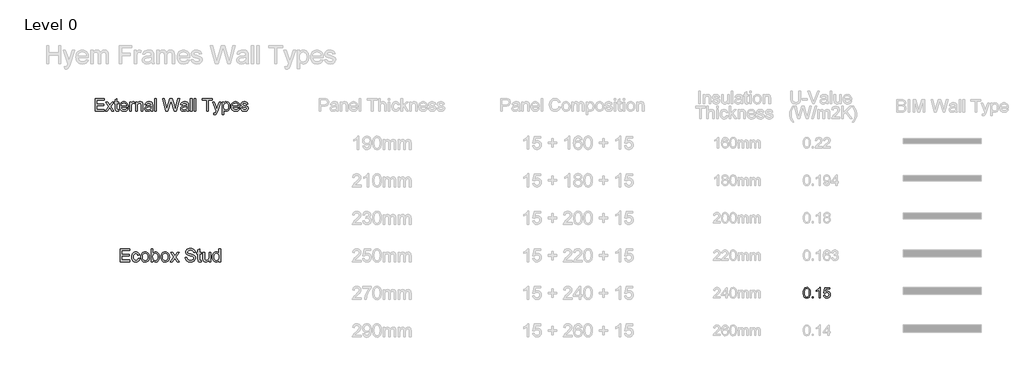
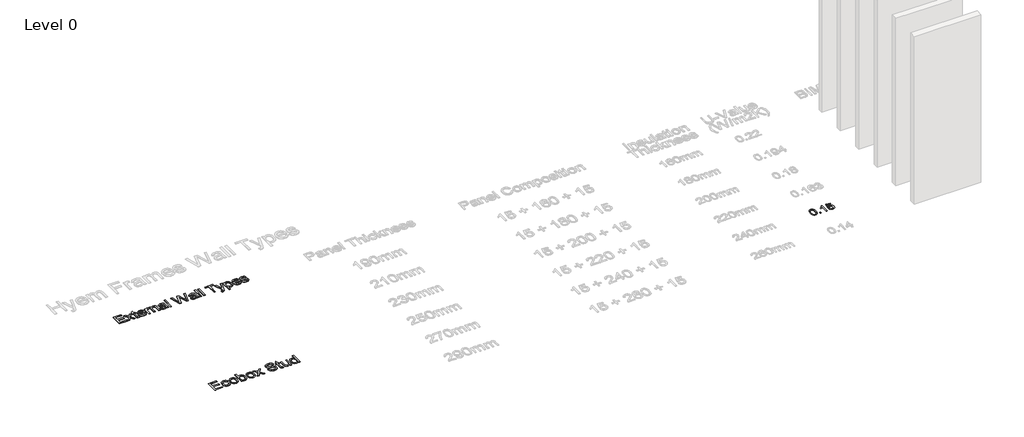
# One storey, part 4 of 11: 3 proxies.
"""IFC4 building model written with IfcOpenShell, lengths in millimetres."""

from ifc_helpers import new_model, si_unit, origin, origin_with_axes, place, context, project, spatial, polyline, outline, extrude, element, save

model = new_model("IFC4")

# Units and contexts
model_context = context("Model", 3, world=origin())
ifc_project = project(units=[si_unit("LENGTHUNIT", "METRE", prefix="MILLI")], contexts=[model_context])

# Site, building, storey
site = spatial("IfcSite", under=ifc_project)
building = spatial("IfcBuilding", under=site)
storey = spatial("IfcBuildingStorey", under=building, Name="Level 0", Elevation=0.0)

# Proxies
placement = place(None, origin())
element("IfcBuildingElementProxy", 1, Name="600mm Arial-400", ObjectType="600mm Arial-400", at=placement, inside=storey, context=model_context, shape_type="SweptSolid", body=[
    extrude(outline(polyline([(37665.4277656, -1300.3900507), (37669.1188483, -1236.0720152), (37680.1920964, -1184.7770023), (37698.5371452, -1145.7201972), (37710.3952082, -1130.4868169), (37724.0436302, -1118.1167848), (37739.5283965, -1108.5457215), (37756.8954924, -1101.7092478), (37797.2766727, -1096.2400688), (37828.2278112, -1099.4774304), (37855.9415882, -1109.189515), (37879.1181539, -1124.9961781), (37896.4576586, -1146.5172748), (37909.5542576, -1173.5688642), (37920.0021063, -1205.9670052), (37926.8447114, -1247.108475), (37929.1255798, -1300.3900507), (37925.4712853, -1364.3402042), (37914.5084018, -1415.5125897), (37896.2737176, -1454.606183), (37884.4432458, -1469.8855486), (37870.8040208, -1482.31996), (37855.3008604, -1491.9554026), (37837.8785822, -1498.8378616), (37797.2766727, -1504.3438288), (37769.6119467, -1501.9525958), (37745.0864803, -1494.7788969), (37723.7002737, -1482.8227321), (37705.4533267, -1466.0841013), (37687.9421437, -1435.8258072), (37675.4341559, -1398.1240341), (37667.9293632, -1352.9787819), (37665.4277656, -1300.3900507)]), holes=[polyline([(37715.6559207, -1300.2919488), (37717.1274487, -1343.9564759), (37721.5420326, -1379.3007386), (37728.8996725, -1406.3247369), (37739.2003684, -1425.0284706), (37751.6593053, -1437.754122), (37765.4916683, -1446.8438729), (37780.6974575, -1452.2977235), (37797.2766727, -1454.1156737), (37813.8558879, -1452.2915922), (37829.0616771, -1446.8193475), (37842.8940401, -1437.6989397), (37855.352977, -1424.9303688), (37865.6536729, -1406.1959782), (37873.0113128, -1379.1781113), (37877.4258967, -1343.8767682), (37878.8974247, -1300.2919488), (37877.4749476, -1257.7831843), (37873.2075165, -1223.0612553), (37866.0951313, -1196.1261619), (37856.1377919, -1176.977904), (37843.8873215, -1163.629919), (37829.8955429, -1154.0956439), (37814.1624563, -1148.3750789), (37796.6880615, -1146.4682239), (37780.1946854, -1148.1482183), (37765.2464137, -1153.1882017), (37751.8432463, -1161.5881739), (37739.9851833, -1173.348135), (37729.3411309, -1194.1947814), (37721.7382364, -1222.3009658), (37717.1764996, -1257.6666883), (37715.6559207, -1300.2919488)])]), origin_with_axes(), (0.0, 0.0, 1.0), 8.0),
    extrude(outline(polyline([(37998.189293, -1498.0653094), (37998.189293, -1447.8371543), (38048.4174481, -1447.8371543), (38048.4174481, -1498.0653094), (37998.189293, -1498.0653094)])), origin_with_axes(), (0.0, 0.0, 1.0), 8.0),
    extrude(outline(polyline([(38318.3937816, -1498.0653094), (38268.1656265, -1498.0653094), (38268.1656265, -1184.9241551), (38247.1963528, -1201.8835151), (38220.5862218, -1218.8183496), (38167.7093164, -1244.1776818), (38167.7093164, -1196.696379), (38207.158529, -1175.2365959), (38241.3347663, -1149.7055854), (38268.2759911, -1122.5558942), (38286.020166, -1096.2400688), (38318.3937816, -1096.2400688), (38318.3937816, -1498.0653094)])), origin_with_axes(), (0.0, 0.0, 1.0), 8.0),
    extrude(outline(polyline([(38437.6856499, -1391.3304799), (38487.913805, -1385.0519605), (38497.1353803, -1415.2060214), (38513.2240862, -1436.8006945), (38536.1063463, -1449.7869289), (38565.7085842, -1454.1156737), (38584.838448, -1452.6104232), (38601.7119688, -1448.0946717), (38616.3291468, -1440.5684192), (38628.6899818, -1430.0316658), (38638.5185624, -1417.0055775), (38645.5389772, -1402.0113205), (38651.155309, -1366.1183005), (38645.8945964, -1332.3222078), (38639.3187058, -1318.4040057), (38630.1124588, -1306.4723663), (38618.2451988, -1296.9013031), (38603.6862689, -1290.0648293), (38566.4933991, -1284.5956503), (38542.1273483, -1286.7784168), (38522.3966107, -1293.3267164), (38506.6389985, -1303.3576321), (38494.1923244, -1315.9882473), (38443.9641693, -1309.7097279), (38487.913805, -1102.5185882), (38682.5479059, -1102.5185882), (38682.5479059, -1152.7467433), (38528.5279772, -1152.7467433), (38506.9455669, -1263.4056474), (38524.6713477, -1250.7014559), (38542.8263241, -1241.6270333), (38561.4104962, -1236.1823798), (38580.423864, -1234.3674953), (38604.8880167, -1236.6177068), (38627.3656066, -1243.3683414), (38647.8566337, -1254.6193991), (38666.3610981, -1270.3708799), (38681.6833832, -1289.6601591), (38692.6278726, -1311.5246124), (38699.1945662, -1335.9642396), (38701.383464, -1362.9790408), (38699.4152954, -1389.0005606), (38693.5107894, -1413.2071959), (38683.669946, -1435.5989466), (38669.8927653, -1456.1758129), (38649.0215934, -1477.2493198), (38624.6678053, -1492.3018248), (38596.831401, -1501.3333278), (38565.5123805, -1504.3438288), (38539.5920283, -1502.4093826), (38516.1794049, -1496.6060442), (38495.2745106, -1486.9338134), (38476.8773451, -1473.3926903), (38461.5703884, -1456.6571252), (38449.9361203, -1437.4015684), (38441.9745408, -1415.62602), (38437.6856499, -1391.3304799)])), origin_with_axes(), (0.0, 0.0, 1.0), 8.0),
])
element("IfcBuildingElementProxy", 2, Name="Arial-500", ObjectType="Arial-500", at=placement, inside=storey, context=model_context, shape_type="SweptSolid", body=[
    extrude(outline(polyline([(11478.0175368, -108.8017336), (11478.0175368, 393.4798171), (11839.0324014, 393.4798171), (11839.0324014, 330.6946233), (11540.8027307, 330.6946233), (11540.8027307, 181.5797879), (11823.336103, 181.5797879), (11823.336103, 118.7945941), (11540.8027307, 118.7945941), (11540.8027307, -46.0165398), (11846.8805507, -46.0165398), (11846.8805507, -108.8017336), (11478.0175368, -108.8017336)])), origin_with_axes(), (0.0, 0.0, 1.0), 8.0),
    extrude(outline(polyline([(12168.6546691, 24.6168033), (12231.439863, 16.7686541), (12224.6110534, -12.8573428), (12213.9348114, -39.0727671), (12199.4111368, -61.8776187), (12181.0400296, -81.2718976), (12159.595575, -96.7497662), (12135.8518579, -107.8053865), (12109.8088783, -114.4387588), (12081.4666363, -116.6498828), (12046.2534315, -113.565039), (12014.6807257, -104.3105076), (11986.7485188, -88.8862885), (11962.4568108, -67.2923818), (11942.7942846, -39.9349905), (11928.749623, -7.2203177), (11920.3228261, 30.8516367), (11917.5138937, 74.2808727), (11922.3116881, 130.1529507), (11936.7050712, 178.5754183), (11947.55759, 199.5255315), (11960.9239692, 217.6782087), (11976.8042086, 233.0334499), (11995.1983084, 245.5912551), (12036.2018224, 262.3298859), (12080.6082449, 267.9094295), (12108.4638098, 265.9933774), (12133.6598943, 260.2452212), (12156.1964986, 250.6649609), (12176.0736227, 237.2525965), (12192.9540413, 220.3146963), (12206.5005294, 200.1578287), (12216.7130868, 176.7819936), (12223.5917137, 150.187191), (12160.8065199, 142.3390418), (12149.4175065, 169.730922), (12131.6825286, 189.3666235), (12108.582605, 201.1848326), (12081.0987543, 205.1242356), (12059.7654306, 203.1851909), (12040.5244359, 197.3680569), (12023.37577, 187.6728335), (12008.3194329, 174.0995207), (11996.0605318, 156.333886), (11987.3041739, 134.0616969), (11982.0503592, 107.2829533), (11980.2990876, 75.9976553), (11982.0120381, 44.2410085), (11987.1508897, 17.1518645), (11995.7156424, -5.2697767), (12007.7062962, -23.0239151), (12022.4637292, -36.5167537), (12039.3288194, -46.1544955), (12058.3015669, -51.9371406), (12079.3819716, -53.864689), (12111.8935429, -49.0515662), (12138.5496592, -34.6121979), (12149.3293681, -23.6907012), (12157.940106, -10.1787021), (12168.6546691, 24.6168033)])), origin_with_axes(), (0.0, 0.0, 1.0), 8.0),
    extrude(outline(polyline([(12270.6806091, 75.6297733), (12274.0758534, 123.4007832), (12284.2615861, 164.5652456), (12301.2378073, 199.1231606), (12325.0045171, 227.074528), (12348.9321752, 244.9397974), (12375.3430367, 257.7007041), (12404.2371018, 265.3572481), (12435.6143703, 267.9094295), (12470.2527594, 264.801593), (12501.5725463, 255.4780837), (12529.5737311, 239.9389015), (12554.2563137, 218.1840464), (12574.4016851, 190.9492825), (12588.791236, 158.9703736), (12597.4249666, 122.2473199), (12600.3028768, 80.7801212), (12595.2138425, 17.3511339), (12588.8525497, -8.6841815), (12579.9467397, -30.933378), (12568.6075436, -50.1513801), (12554.9460925, -67.0931124), (12538.9623862, -81.7585749), (12520.6564248, -94.1477675), (12479.9288223, -111.024354), (12435.6143703, -116.6498828), (12400.4701434, -113.5535427), (12368.8591166, -104.2645223), (12340.7812897, -88.7828217), (12316.2366628, -67.1084408), (12296.3058893, -39.6092617), (12282.0696225, -6.6531663), (12273.5278625, 31.7598454), (12270.6806091, 75.6297733)]), holes=[polyline([(12333.465803, 75.7524006), (12335.2822203, 45.2986692), (12340.7314724, 18.9299608), (12349.8135591, -3.3537246), (12362.5284806, -21.5523871), (12377.9948528, -35.6890192), (12395.3312918, -45.7866135), (12414.5377976, -51.8451701), (12435.6143703, -53.864689), (12456.583644, -51.8336738), (12475.7135078, -45.7406283), (12493.0039615, -35.5855524), (12508.4550053, -21.3684461), (12521.1699268, -2.9896747), (12530.2520135, 19.6503964), (12535.7012656, 46.5517673), (12537.5176829, 77.7144379), (12535.6897693, 107.2024791), (12530.2060283, 132.8814088), (12521.06646, 154.751227), (12508.2710643, 172.8119337), (12492.762539, 186.9485658), (12475.4835815, 197.0461601), (12456.4341919, 203.1047167), (12435.6143703, 205.1242356), (12414.5377976, 203.1123809), (12395.3312918, 197.076817), (12377.9948528, 187.0175437), (12362.5284806, 172.934561), (12349.8135591, 154.789548), (12340.7314724, 132.5441836), (12335.2822203, 106.1984678), (12333.465803, 75.7524006)])]), origin_with_axes(), (0.0, 0.0, 1.0), 8.0),
    extrude(outline(polyline([(12733.7214137, -108.8017336), (12670.9362199, -108.8017336), (12670.9362199, 393.4798171), (12733.7214137, 393.4798171), (12733.7214137, 207.2089002), (12754.3687907, 233.7653818), (12777.6833121, 252.7342972), (12803.664978, 264.1156464), (12832.3137884, 267.9094295), (12864.6567472, 264.4911926), (12895.2216096, 254.236482), (12922.2609362, 237.7890911), (12944.0272876, 215.7928135), (12961.0878151, 188.4622469), (12974.0096702, 156.0119893), (12982.1490594, 119.7909411), (12984.8621891, 81.1480032), (12982.0532568, 36.5576397), (12973.6264598, -2.667778), (12959.5817982, -36.52825), (12939.919272, -65.0237762), (12916.3173428, -87.6101978), (12890.4544721, -103.7433562), (12862.33066, -113.4232512), (12831.9459064, -116.6498828), (12802.3543984, -112.4882178), (12776.1198137, -100.0032226), (12753.2421521, -79.1948972), (12733.7214137, -50.0632417), (12733.7214137, -108.8017336)]), holes=[polyline([(12733.7214137, 78.2049473), (12738.0133703, 25.8430766), (12743.3783161, 6.0081057), (12750.8892401, -9.5962222), (12766.1026935, -28.9636764), (12783.7840219, -42.7975723), (12803.9332253, -51.0979098), (12826.5503038, -53.864689), (12845.327614, -51.8260096), (12862.7866803, -45.7099714), (12878.9275029, -35.5165745), (12893.7500816, -21.2458188), (12906.1431063, -2.9360253), (12914.9952668, 19.3744849), (12920.3065631, 45.6857117), (12922.0769952, 75.9976553), (12920.3793731, 106.8844145), (12915.2865067, 133.4485602), (12906.7983961, 155.6900925), (12894.9150413, 173.6090114), (12880.625125, 187.396922), (12864.9173302, 197.2454295), (12847.7916569, 203.1545341), (12829.2481051, 205.1242356), (12810.470795, 203.0855562), (12793.0117286, 196.969518), (12776.8709061, 186.7761211), (12762.0483273, 172.5053654), (12749.6553026, 154.3795129), (12740.8031421, 132.6208257), (12735.4918458, 107.2293039), (12733.7214137, 78.2049473)])]), origin_with_axes(), (0.0, 0.0, 1.0), 8.0),
    extrude(outline(polyline([(13039.7992337, 75.6297733), (13043.1944779, 123.4007832), (13053.3802107, 164.5652456), (13070.3564319, 199.1231606), (13094.1231416, 227.074528), (13118.0507998, 244.9397974), (13144.4616613, 257.7007041), (13173.3557264, 265.3572481), (13204.7329949, 267.9094295), (13239.371384, 264.801593), (13270.6911709, 255.4780837), (13298.6923557, 239.9389015), (13323.3749383, 218.1840464), (13343.5203097, 190.9492825), (13357.9098606, 158.9703736), (13366.5435912, 122.2473199), (13369.4215014, 80.7801212), (13364.3324671, 17.3511339), (13357.9711743, -8.6841815), (13349.0653643, -30.933378), (13337.7261682, -50.1513801), (13324.0647171, -67.0931124), (13308.0810108, -81.7585749), (13289.7750494, -94.1477675), (13249.0474469, -111.024354), (13204.7329949, -116.6498828), (13169.588768, -113.5535427), (13137.9777412, -104.2645223), (13109.8999143, -88.7828217), (13085.3552874, -67.1084408), (13065.4245139, -39.6092617), (13051.1882471, -6.6531663), (13042.6464871, 31.7598454), (13039.7992337, 75.6297733)]), holes=[polyline([(13102.5844275, 75.7524006), (13104.4008449, 45.2986692), (13109.8500969, 18.9299608), (13118.9321837, -3.3537246), (13131.6471052, -21.5523871), (13147.1134774, -35.6890192), (13164.4499164, -45.7866135), (13183.6564222, -51.8451701), (13204.7329949, -53.864689), (13225.7022686, -51.8336738), (13244.8321323, -45.7406283), (13262.1225861, -35.5855524), (13277.5736299, -21.3684461), (13290.2885514, -2.9896747), (13299.3706381, 19.6503964), (13304.8198902, 46.5517673), (13306.6363075, 77.7144379), (13304.8083939, 107.2024791), (13299.3246529, 132.8814088), (13290.1850846, 154.751227), (13277.3896889, 172.8119337), (13261.8811636, 186.9485658), (13244.6022061, 197.0461601), (13225.5528165, 203.1047167), (13204.7329949, 205.1242356), (13183.6564222, 203.1123809), (13164.4499164, 197.076817), (13147.1134774, 187.0175437), (13131.6471052, 172.934561), (13118.9321837, 154.789548), (13109.8500969, 132.5441836), (13104.4008449, 106.1984678), (13102.5844275, 75.7524006)])]), origin_with_axes(), (0.0, 0.0, 1.0), 8.0),
    extrude(outline(polyline([(13400.8140983, -108.8017336), (13534.9683992, 76.7334193), (13408.6622475, 260.0612802), (13483.9554292, 260.0612802), (13544.9012131, 171.646974), (13573.4733814, 130.0763086), (13598.2441024, 164.1667068), (13667.6511721, 260.0612802), (13743.1896085, 260.0612802), (13610.5068355, 76.610792), (13738.2845152, -108.8017336), (13662.8687062, -108.8017336), (13585.8587419, 2.7891383), (13571.8792261, 23.2679027), (13476.3525346, -108.8017336), (13400.8140983, -108.8017336)])), origin_with_axes(), (0.0, 0.0, 1.0), 8.0),
    extrude(outline(polyline([(13973.7289921, 63.8575495), (14036.514186, 63.8575495), (14043.7185417, 29.0160588), (14056.7476957, 1.011042), (14077.0731759, -21.2151619), (14106.1665104, -38.7202135), (14141.7284366, -50.0785701), (14181.4596921, -53.864689), (14216.4391384, -50.9982751), (14247.0653145, -42.3990335), (14271.8820208, -28.7873997), (14289.4330576, -10.8838092), (14299.8717093, 9.6715973), (14303.3512598, 31.2386792), (14300.745429, 52.2539382), (14292.9279366, 70.4181117), (14277.0476971, 85.9151408), (14250.2536252, 98.9289663), (14158.8349494, 122.9026097), (14098.8241989, 138.7675207), (14060.4265156, 153.8660109), (14029.1718745, 174.9885688), (14007.0223127, 200.5870243), (13993.8245461, 230.1095544), (13989.4252906, 263.0043362), (13994.8668784, 299.7772073), (14011.191642, 334.0668749), (14023.3279157, 349.5945608), (14037.9703855, 363.1295525), (14074.7739135, 384.2214536), (14118.9504097, 397.0513382), (14167.8480582, 401.3279664), (14220.8230655, 396.8520688), (14267.1761969, 383.4243759), (14305.2519834, 361.3207994), (14320.5650715, 347.1190215), (14333.3949561, 330.8172506), (14351.206576, 293.8144533), (14358.2883044, 252.213131), (14295.5031106, 252.213131), (14291.3031245, 272.2473713), (14283.9761414, 289.6757808), (14273.5221614, 304.4983596), (14259.9411844, 316.7151075), (14242.9802915, 326.2647109), (14222.386564, 333.0858563), (14170.3006049, 338.5427725), (14116.9883724, 333.1471699), (14096.6092427, 326.4026667), (14080.4147707, 316.9603621), (14068.0753955, 305.6096698), (14059.261556, 293.140003), (14053.9732523, 279.5513618), (14052.2104844, 264.8437462), (14057.2075482, 240.7168186), (14072.1987395, 221.3110434), (14085.9636575, 212.6811449), (14107.6380384, 203.959276), (14174.7151888, 186.2396265), (14243.9383176, 169.4090252), (14285.8155514, 154.7244023), (14321.6074038, 131.9463754), (14346.5773942, 103.8340596), (14361.2466888, 70.6940232), (14366.1364536, 32.8328345), (14360.5109248, -5.871417), (14343.6343383, -42.2764061), (14316.1964728, -73.6076894), (14278.8871071, -97.0908234), (14234.0208321, -111.760118), (14183.9122387, -116.6498828), (14122.3993034, -111.3769076), (14095.7240267, -104.7856885), (14071.7695438, -95.5579818), (14050.390235, -83.678459), (14031.4404801, -69.1317918), (14014.9202793, -51.9179801), (14000.8296324, -32.0370239), (13989.47894, -10.1327168), (13981.1786025, 13.1511478), (13975.9286199, 37.8145699), (13973.7289921, 63.8575495)])), origin_with_axes(), (0.0, 0.0, 1.0), 8.0),
    extrude(outline(polyline([(14585.8846321, -56.439863), (14593.7327813, -110.6411436), (14546.7665133, -116.6498828), (14516.6308465, -114.044052), (14494.159388, -106.2265596), (14478.2791485, -94.1784243), (14467.917139, -78.8806647), (14462.214968, -52.6077588), (14460.3142444, -7.6341849), (14460.3142444, 197.2760864), (14413.225349, 197.2760864), (14413.225349, 260.0612802), (14460.3142444, 260.0612802), (14460.3142444, 349.7018597), (14523.0994382, 386.6126866), (14523.0994382, 260.0612802), (14585.8846321, 260.0612802), (14585.8846321, 197.2760864), (14523.0994382, 197.2760864), (14523.0994382, -5.794775), (14526.4103762, -38.1683905), (14537.1402677, -49.6340461), (14558.5387371, -53.864689), (14585.8846321, -56.439863)])), origin_with_axes(), (0.0, 0.0, 1.0), 8.0),
    extrude(outline(polyline([(14884.1143028, -108.8017336), (14884.1143028, -45.4034031), (14861.3975896, -76.573738), (14834.9407428, -98.8382629), (14804.7437624, -112.1969779), (14770.8066483, -116.6498828), (14740.2264575, -113.5228859), (14711.7615881, -104.141895), (14687.8799153, -90.0397519), (14671.049314, -72.7492981), (14659.7216142, -51.7493675), (14652.3486459, -26.518794), (14648.6698259, 31.8518159), (14648.6698259, 260.0612802), (14711.4550198, 260.0612802), (14711.4550198, 61.4050028), (14715.2564671, -2.6064643), (14724.4075317, -23.9589485), (14740.0885017, -40.1917415), (14761.2570449, -50.4464521), (14786.8708288, -53.864689), (14813.9561407, -50.36981), (14839.2940131, -39.8851732), (14860.1866447, -23.3764686), (14873.9362343, -1.8093867), (14881.5697857, 27.7284719), (14884.1143028, 68.1495061), (14884.1143028, 260.0612802), (14946.8994967, 260.0612802), (14946.8994967, -108.8017336), (14884.1143028, -108.8017336)])), origin_with_axes(), (0.0, 0.0, 1.0), 8.0),
    extrude(outline(polyline([(15260.8254659, -108.8017336), (15260.8254659, -49.5727324), (15242.0404915, -78.9189857), (15219.2854573, -99.8805952), (15192.5603632, -112.4575609), (15161.8652092, -116.6498828), (15121.2755624, -110.5798299), (15084.1194809, -92.3696712), (15052.6655703, -63.2916651), (15029.1824363, -24.6180704), (15014.559127, 22.0876146), (15009.6846905, 75.2618913), (15014.1759166, 127.7770461), (15027.6495946, 175.2031667), (15037.7510211, 196.3333888), (15050.0903963, 214.8424516), (15064.6677204, 230.7303553), (15081.4829933, 243.9970998), (15119.4514808, 261.931347), (15161.6199545, 267.9094295), (15192.3381011, 263.6328013), (15219.5000551, 250.8029167), (15242.5233366, 231.1365584), (15260.8254659, 206.3505089), (15260.8254659, 393.4798171), (15323.6106598, 393.4798171), (15323.6106598, -108.8017336), (15260.8254659, -108.8017336)]), holes=[polyline([(15072.4698844, 75.507146), (15074.2403165, 45.0610788), (15079.5516128, 18.715363), (15088.4037733, -3.5300014), (15100.796798, -21.6750144), (15115.5963841, -35.757997), (15131.6682288, -45.8172704), (15149.012332, -51.8528343), (15167.6286938, -53.864689), (15186.333194, -51.9448048), (15203.5738304, -46.1851523), (15219.3506031, -36.5857315), (15233.6635119, -23.1465424), (15245.5468668, -5.760286), (15254.0349774, 15.6803365), (15259.1278438, 41.1753252), (15260.8254659, 70.72468), (15259.097187, 103.1212882), (15253.9123501, 130.9040431), (15245.2709553, 154.0729446), (15233.1730026, 172.6279927), (15218.5458612, 186.845099), (15202.3169003, 197.0001749), (15184.4861198, 203.0932204), (15165.0535198, 205.1242356), (15146.069276, 203.1736946), (15128.7251728, 197.3220716), (15113.0212101, 187.5693667), (15098.957388, 173.9155797), (15087.3691052, 156.0618066), (15079.0917603, 133.7091433), (15074.1253534, 106.8575898), (15072.4698844, 75.507146)])]), origin_with_axes(), (0.0, 0.0, 1.0), 8.0),
])
element("IfcBuildingElementProxy", 3, Name="Arial-500 Blanco", ObjectType="Arial-500 Blanco", at=placement, inside=storey, context=model_context, shape_type="SweptSolid", body=[
    extrude(outline(polyline([(10515.9563027, 5675.3857513), (10515.9563027, 6155.0189703), (10860.6926789, 6155.0189703), (10860.6926789, 6095.0648179), (10575.9104551, 6095.0648179), (10575.9104551, 5952.673706), (10845.7041408, 5952.673706), (10845.7041408, 5892.7195537), (10575.9104551, 5892.7195537), (10575.9104551, 5735.3399037), (10868.1869479, 5735.3399037), (10868.1869479, 5675.3857513), (10515.9563027, 5675.3857513)])), origin_with_axes(), (0.0, 0.0, 1.0), 20.0),
    extrude(outline(polyline([(10913.1525622, 5675.3857513), (11041.2577237, 5852.5549555), (10920.6468313, 6027.6163965), (10992.5449749, 6027.6163965), (11050.742658, 5943.1887718), (11078.0264812, 5903.4925654), (11101.6802679, 5936.0457966), (11167.9577098, 6027.6163965), (11240.0900494, 6027.6163965), (11113.3900633, 5852.4378575), (11235.4061312, 5675.3857513), (11163.3908896, 5675.3857513), (11089.8533746, 5781.9448893), (11076.5042078, 5801.5002476), (10985.2849018, 5675.3857513), (10913.1525622, 5675.3857513)])), origin_with_axes(), (0.0, 0.0, 1.0), 20.0),
    extrude(outline(polyline([(11415.2685884, 5725.3865776), (11422.7628574, 5673.629282), (11377.9143411, 5667.8914823), (11349.1375189, 5670.3798138), (11327.6793189, 5677.8448083), (11312.5151338, 5689.3496823), (11302.6203567, 5703.957652), (11297.1753019, 5729.0458887), (11295.3602836, 5771.9915632), (11295.3602836, 5967.6622441), (11250.3946693, 5967.6622441), (11250.3946693, 6027.6163965), (11295.3602836, 6027.6163965), (11295.3602836, 6113.2150008), (11355.314436, 6148.4614849), (11355.314436, 6027.6163965), (11415.2685884, 6027.6163965), (11415.2685884, 5967.6622441), (11355.314436, 5967.6622441), (11355.314436, 5773.7480325), (11358.4760807, 5742.8341727), (11368.7221517, 5731.885514), (11389.1557446, 5727.8456346), (11415.2685884, 5725.3865776)])), origin_with_axes(), (0.0, 0.0, 1.0), 20.0),
    extrude(outline(polyline([(11721.8310316, 5780.305518), (11780.6142044, 5772.8112489), (11771.6013213, 5749.2672416), (11759.434112, 5728.5189479), (11744.1125766, 5710.5663678), (11725.6367151, 5695.4095014), (11704.1968116, 5683.370368), (11679.9831503, 5674.770987), (11652.9957312, 5669.6113585), (11623.2345544, 5667.8914823), (11586.0339982, 5670.8591835), (11552.8879586, 5679.7622873), (11523.7964357, 5694.6007937), (11498.7594295, 5715.3747025), (11478.6259, 5741.5058428), (11464.2448076, 5772.4160433), (11455.6161521, 5808.1053041), (11452.7399336, 5848.5736251), (11455.6454266, 5890.4141877), (11464.3619055, 5927.2927245), (11478.8893704, 5959.2092356), (11499.2278213, 5986.1637208), (11524.1989599, 6007.5780092), (11552.6244882, 6022.8739294), (11584.5044062, 6032.0514815), (11619.8387137, 6035.1106656), (11654.0349756, 6032.0588001), (11684.9598133, 6022.9032039), (11712.613227, 6007.6438768), (11736.9952166, 5986.2808188), (11756.8982094, 5959.3848825), (11771.1146329, 5927.5269204), (11779.644487, 5890.7069326), (11782.4877717, 5848.9249189), (11782.1364778, 5832.7654013), (11512.694086, 5832.7654013), (11516.1667722, 5808.8408256), (11523.0718921, 5787.8876105), (11533.4094459, 5769.9057559), (11547.1794334, 5754.895262), (11563.620718, 5743.06105), (11581.9721629, 5734.6080415), (11602.2337682, 5729.5362363), (11624.4055339, 5727.8456346), (11656.3147264, 5730.9780049), (11683.1887068, 5740.3751157), (11705.0274752, 5756.6224568), (11721.8310316, 5780.305518)]), holes=[polyline([(11512.694086, 5892.7195537), (11722.5336193, 5892.7195537), (11714.424586, 5924.3945502), (11698.5285387, 5947.0530043), (11682.1787369, 5959.3482894), (11663.5747995, 5968.1306359), (11642.7167265, 5973.4000439), (11619.6045178, 5975.1565132), (11579.1910865, 5969.5504486), (11561.6080969, 5962.542868), (11545.7742579, 5952.732255), (11532.4872995, 5940.5723644), (11522.5449513, 5926.5169506), (11515.9472135, 5910.5660137), (11512.694086, 5892.7195537)])]), origin_with_axes(), (0.0, 0.0, 1.0), 20.0),
    extrude(outline(polyline([(11842.441924, 5675.3857513), (11842.441924, 6027.6163965), (11894.9018074, 6027.6163965), (11894.9018074, 5975.507807), (11914.2815187, 6005.7190791), (11932.1389567, 6023.5179681), (11950.0549436, 6032.2124912), (11969.6103019, 6035.1106656), (11999.4702802, 6030.4852964), (12029.7986502, 6016.6091888), (12009.7749001, 5962.861228), (11988.6972684, 5972.0826919), (11967.6196367, 5975.1565132), (11949.718287, 5972.1997898), (11933.7197791, 5963.3296198), (11920.7950924, 5949.2193164), (11912.1152066, 5930.5421928), (11904.8258589, 5897.052178), (11902.3960764, 5860.5176164), (11902.3960764, 5675.3857513), (11842.441924, 5675.3857513)])), origin_with_axes(), (0.0, 0.0, 1.0), 20.0),
    extrude(outline(polyline([(12067.2699954, 5675.3857513), (12067.2699954, 6027.6163965), (12127.2241478, 6027.6163965), (12127.2241478, 5978.4352559), (12148.0529464, 6003.2307476), (12173.0679968, 6020.9418131), (12202.269299, 6031.5684525), (12235.6568531, 6035.1106656), (12265.2094492, 6032.2564029), (12292.2737138, 6023.6936151), (12314.8443444, 6010.4908208), (12330.9160386, 5993.7165389), (12341.8207855, 5973.4146811), (12348.8905745, 5949.6291592), (12352.0522192, 5891.6656721), (12352.0522192, 5675.3857513), (12292.0980668, 5675.3857513), (12292.0980668, 5883.5859133), (12290.370872, 5914.5875965), (12285.1892876, 5936.6312864), (12275.6311671, 5952.4248729), (12260.7743642, 5964.6762463), (12241.7313094, 5972.5364465), (12219.6144334, 5975.1565132), (12184.4996845, 5969.272341), (12168.8854042, 5961.9171258), (12154.56652, 5951.6198245), (12142.6042322, 5937.2094575), (12134.0597409, 5917.5150454), (12128.9330461, 5892.5365881), (12127.2241478, 5862.2740857), (12127.2241478, 5675.3857513), (12067.2699954, 5675.3857513)])), origin_with_axes(), (0.0, 0.0, 1.0), 20.0),
    extrude(outline(polyline([(12659.3172501, 5720.3513656), (12630.6721632, 5695.7900698), (12601.1781161, 5679.7183756), (12570.1617955, 5670.8482056), (12536.9498884, 5667.8914823), (12510.2552142, 5669.6699074), (12486.8466014, 5675.005183), (12466.7240499, 5683.8973088), (12449.8875597, 5696.346285), (12436.5932826, 5711.5617004), (12427.0973704, 5728.7531438), (12421.3998231, 5747.9206151), (12419.5006406, 5769.0641144), (12422.3695405, 5793.9181551), (12430.9762401, 5816.4887857), (12444.2522206, 5835.8099481), (12461.1289632, 5850.9155841), (12480.9624292, 5862.3326346), (12503.1085797, 5870.5880404), (12554.9829733, 5879.6045828), (12616.2837521, 5889.0895171), (12658.9659563, 5900.2138227), (12659.3172501, 5913.5629894), (12655.1895473, 5940.3198719), (12642.8064387, 5957.826016), (12615.1127726, 5970.8238889), (12576.5289968, 5975.1565132), (12540.8141208, 5972.2729761), (12515.8722567, 5963.6223647), (12498.8637789, 5947.6238568), (12486.9490621, 5922.6966299), (12426.9949097, 5930.1908989), (12437.4019903, 5962.978326), (12452.9321065, 5988.7398758), (12475.0343453, 6008.4416066), (12505.1577939, 6023.0495763), (12541.9997376, 6032.0953932), (12584.2574617, 6035.1106656), (12624.787991, 6032.4466871), (12656.9167421, 6024.4547518), (12681.1413813, 6012.4375742), (12697.9595749, 5997.6978693), (12709.113155, 5979.4745002), (12716.3439537, 5957.0063303), (12719.2714025, 5904.546447), (12719.2714025, 5829.9550504), (12722.3159493, 5725.7964204), (12734.2599406, 5675.3857513), (12674.3057882, 5675.3857513), (12664.703756, 5696.2291871), (12659.3172501, 5720.3513656)]), holes=[polyline([(12659.3172501, 5840.2596703), (12619.035554, 5830.2770698), (12562.5943403, 5821.8752916), (12511.0126916, 5812.1561614), (12497.5903386, 5805.5108525), (12487.6516498, 5796.3479376), (12481.5040072, 5785.3700045), (12479.454793, 5773.2796407), (12483.9191525, 5755.4514773), (12497.312231, 5740.8435075), (12519.3412836, 5731.0951028), (12549.7135653, 5727.8456346), (12581.9155026, 5731.4317595), (12610.3703054, 5742.190134), (12633.4386023, 5758.0422695), (12649.481022, 5776.9096773), (12656.5947227, 5796.3479376), (12658.9659563, 5823.280467), (12659.3172501, 5840.2596703)])]), origin_with_axes(), (0.0, 0.0, 1.0), 20.0),
    extrude(outline(polyline([(12801.708362, 5675.3857513), (12801.708362, 6155.0189703), (12861.6625144, 6155.0189703), (12861.6625144, 5675.3857513), (12801.708362, 5675.3857513)])), origin_with_axes(), (0.0, 0.0, 1.0), 20.0),
    extrude(outline(polyline([(13232.2775384, 5675.3857513), (13101.4791239, 6155.0189703), (13163.3068436, 6155.0189703), (13239.1863177, 5839.7912785), (13262.6059084, 5742.4828789), (13287.6648706, 5828.5498749), (13382.7484091, 6155.0189703), (13471.859952, 6155.0189703), (13540.9477448, 5918.3640056), (13570.5442526, 5830.5405402), (13592.3537465, 5742.4828789), (13615.0707495, 5836.9809276), (13691.5357134, 6155.0189703), (13753.480531, 6155.0189703), (13622.7992145, 5675.3857513), (13558.6295358, 5675.3857513), (13443.5222471, 6045.4152855), (13427.4798275, 6097.0554831), (13409.4467426, 6034.8764696), (13304.6440739, 5675.3857513), (13232.2775384, 5675.3857513)])), origin_with_axes(), (0.0, 0.0, 1.0), 20.0),
    extrude(outline(polyline([(14030.7684857, 5720.3513656), (14002.1233988, 5695.7900698), (13972.6293517, 5679.7183756), (13941.6130311, 5670.8482056), (13908.401124, 5667.8914823), (13881.7064498, 5669.6699074), (13858.297837, 5675.005183), (13838.1752854, 5683.8973088), (13821.3387953, 5696.346285), (13808.0445182, 5711.5617004), (13798.548606, 5728.7531438), (13792.8510587, 5747.9206151), (13790.9518762, 5769.0641144), (13793.8207761, 5793.9181551), (13802.4274757, 5816.4887857), (13815.7034562, 5835.8099481), (13832.5801988, 5850.9155841), (13852.4136648, 5862.3326346), (13874.5598153, 5870.5880404), (13926.4342089, 5879.6045828), (13987.7349877, 5889.0895171), (14030.4171919, 5900.2138227), (14030.7684857, 5913.5629894), (14026.6407829, 5940.3198719), (14014.2576742, 5957.826016), (13986.5640082, 5970.8238889), (13947.9802324, 5975.1565132), (13912.2653564, 5972.2729761), (13887.3234923, 5963.6223647), (13870.3150145, 5947.6238568), (13858.4002977, 5922.6966299), (13798.4461453, 5930.1908989), (13808.8532259, 5962.978326), (13824.3833421, 5988.7398758), (13846.4855809, 6008.4416066), (13876.6090295, 6023.0495763), (13913.4509732, 6032.0953932), (13955.7086973, 6035.1106656), (13996.2392266, 6032.4466871), (14028.3679777, 6024.4547518), (14052.5926169, 6012.4375742), (14069.4108105, 5997.6978693), (14080.5643906, 5979.4745002), (14087.7951893, 5957.0063303), (14090.7226381, 5904.546447), (14090.7226381, 5829.9550504), (14093.7671849, 5725.7964204), (14105.7111762, 5675.3857513), (14045.7570238, 5675.3857513), (14036.1549916, 5696.2291871), (14030.7684857, 5720.3513656)]), holes=[polyline([(14030.7684857, 5840.2596703), (13990.4867896, 5830.2770698), (13934.0455759, 5821.8752916), (13882.4639272, 5812.1561614), (13869.0415742, 5805.5108525), (13859.1028854, 5796.3479376), (13852.9552428, 5785.3700045), (13850.9060286, 5773.2796407), (13855.3703881, 5755.4514773), (13868.7634666, 5740.8435075), (13890.7925191, 5731.0951028), (13921.1648009, 5727.8456346), (13953.3667382, 5731.4317595), (13981.821541, 5742.190134), (14004.8898379, 5758.0422695), (14020.9322576, 5776.9096773), (14028.0459583, 5796.3479376), (14030.4171919, 5823.280467), (14030.7684857, 5840.2596703)])]), origin_with_axes(), (0.0, 0.0, 1.0), 20.0),
    extrude(outline(polyline([(14173.1595976, 5675.3857513), (14173.1595976, 6155.0189703), (14233.11375, 6155.0189703), (14233.11375, 5675.3857513), (14173.1595976, 5675.3857513)])), origin_with_axes(), (0.0, 0.0, 1.0), 20.0),
    extrude(outline(polyline([(14323.0449786, 5675.3857513), (14323.0449786, 6155.0189703), (14382.9991309, 6155.0189703), (14382.9991309, 5675.3857513), (14323.0449786, 5675.3857513)])), origin_with_axes(), (0.0, 0.0, 1.0), 20.0),
    extrude(outline(polyline([(14787.6896595, 5675.3857513), (14787.6896595, 6095.0648179), (14630.3100095, 6095.0648179), (14630.3100095, 6155.0189703), (15005.0234618, 6155.0189703), (15005.0234618, 6095.0648179), (14847.6438119, 6095.0648179), (14847.6438119, 5675.3857513), (14787.6896595, 5675.3857513)])), origin_with_axes(), (0.0, 0.0, 1.0), 20.0),
    extrude(outline(polyline([(15064.9776142, 5540.4889085), (15057.4833452, 5598.2181997), (15087.9288132, 5592.9487918), (15103.9419584, 5594.6028004), (15116.383616, 5599.5648262), (15126.0734716, 5607.4835753), (15133.8312111, 5618.0077539), (15150.2249246, 5662.1536825), (15154.9088428, 5676.6738288), (15027.506269, 6027.6163965), (15090.6220661, 6027.6163965), (15158.3046834, 5831.9457156), (15181.8413722, 5753.7242824), (15205.3780609, 5822.9291732), (15274.8171475, 6027.6163965), (15337.4645529, 6027.6163965), (15214.8629952, 5666.9546986), (15183.0123517, 5588.7332654), (15166.7064616, 5563.7621268), (15148.2342594, 5546.4609041), (15126.8053339, 5536.3612056), (15101.6292738, 5532.9946394), (15084.2109531, 5534.8682067), (15064.9776142, 5540.4889085)])), origin_with_axes(), (0.0, 0.0, 1.0), 20.0),
    extrude(outline(polyline([(15387.2311832, 5540.4889085), (15387.2311832, 6027.6163965), (15447.1853356, 6027.6163965), (15447.1853356, 5968.8332237), (15466.7406939, 5997.8296045), (15488.6380113, 6018.5413051), (15514.1653652, 6030.9683254), (15544.6108332, 6035.1106656), (15585.1559998, 6029.3143168), (15620.6074053, 6011.9252707), (15649.4720509, 5983.9974087), (15670.2569377, 5946.5846124), (15682.8156933, 5902.4094093), (15687.0019451, 5854.1943268), (15682.2741152, 5802.9200603), (15668.0906256, 5757.0615741), (15644.9052307, 5718.9461901), (15630.1069768, 5703.6649072), (15613.1716852, 5690.9012302), (15576.2126435, 5673.6439192), (15537.3507601, 5667.8914823), (15509.7888292, 5671.7410775), (15485.1836216, 5683.2898632), (15464.1206272, 5700.7228211), (15447.1853356, 5722.2249328), (15447.1853356, 5540.4889085), (15387.2311832, 5540.4889085)]), holes=[polyline([(15447.1853356, 5848.690723), (15448.8064104, 5819.7968029), (15453.6696348, 5794.9427622), (15461.7750088, 5774.1286009), (15473.1225324, 5757.354319), (15486.7827406, 5744.4442696), (15501.8261683, 5735.2228057), (15518.2528157, 5729.6899274), (15536.0626826, 5727.8456346), (15554.1287013, 5729.755795), (15570.8554121, 5735.4862761), (15586.2428151, 5745.037078), (15600.2909103, 5758.4082006), (15611.9970464, 5775.7899281), (15620.3585721, 5797.3725447), (15625.3754876, 5823.1560504), (15627.0477927, 5853.1404453), (15625.41574, 5881.7855322), (15620.5195818, 5906.5956612), (15612.3593182, 5927.5708322), (15600.934949, 5944.7110452), (15587.2418071, 5958.0309374), (15572.2752248, 5967.5451462), (15556.0352024, 5973.2536714), (15538.5217396, 5975.1565132), (15521.0631666, 5973.1329142), (15504.6365192, 5967.0621171), (15489.2417976, 5956.944122), (15474.8790017, 5942.7789289), (15462.7630228, 5924.756822), (15454.1087521, 5903.0680853), (15448.9161897, 5877.712719), (15447.1853356, 5848.690723)])]), origin_with_axes(), (0.0, 0.0, 1.0), 20.0),
    extrude(outline(polyline([(16001.0586574, 5780.305518), (16059.8418302, 5772.8112489), (16050.8289471, 5749.2672416), (16038.6617378, 5728.5189479), (16023.3402024, 5710.5663678), (16004.8643409, 5695.4095014), (15983.4244374, 5683.370368), (15959.2107761, 5674.770987), (15932.2233571, 5669.6113585), (15902.4621802, 5667.8914823), (15865.261624, 5670.8591835), (15832.1155844, 5679.7622873), (15803.0240615, 5694.6007937), (15777.9870553, 5715.3747025), (15757.8535258, 5741.5058428), (15743.4724334, 5772.4160433), (15734.8437779, 5808.1053041), (15731.9675594, 5848.5736251), (15734.8730524, 5890.4141877), (15743.5895313, 5927.2927245), (15758.1169962, 5959.2092356), (15778.4554471, 5986.1637208), (15803.4265857, 6007.5780092), (15831.852114, 6022.8739294), (15863.732032, 6032.0514815), (15899.0663396, 6035.1106656), (15933.2626014, 6032.0588001), (15964.1874391, 6022.9032039), (15991.8408528, 6007.6438768), (16016.2228424, 5986.2808188), (16036.1258352, 5959.3848825), (16050.3422587, 5927.5269204), (16058.8721128, 5890.7069326), (16061.7153975, 5848.9249189), (16061.3641036, 5832.7654013), (15791.9217118, 5832.7654013), (15795.394398, 5808.8408256), (15802.2995179, 5787.8876105), (15812.6370717, 5769.9057559), (15826.4070592, 5754.895262), (15842.8483438, 5743.06105), (15861.1997887, 5734.6080415), (15881.4613941, 5729.5362363), (15903.6331598, 5727.8456346), (15935.5423522, 5730.9780049), (15962.4163326, 5740.3751157), (15984.255101, 5756.6224568), (16001.0586574, 5780.305518)]), holes=[polyline([(15791.9217118, 5892.7195537), (16001.7612451, 5892.7195537), (15993.6522118, 5924.3945502), (15977.7561646, 5947.0530043), (15961.4063627, 5959.3482894), (15942.8024253, 5968.1306359), (15921.9443523, 5973.4000439), (15898.8321436, 5975.1565132), (15858.4187123, 5969.5504486), (15840.8357227, 5962.542868), (15825.0018837, 5952.732255), (15811.7149253, 5940.5723644), (15801.7725771, 5926.5169506), (15795.1748393, 5910.5660137), (15791.9217118, 5892.7195537)])]), origin_with_axes(), (0.0, 0.0, 1.0), 20.0),
    extrude(outline(polyline([(16099.1867427, 5780.305518), (16159.1408951, 5787.799787), (16168.5965549, 5762.1553351), (16186.8931101, 5743.3025645), (16214.1476589, 5731.7098671), (16250.4772991, 5727.8456346), (16286.3678219, 5731.3878477), (16311.602431, 5742.014487), (16326.5324201, 5757.412868), (16331.5090832, 5775.2703059), (16326.5031456, 5790.5515889), (16311.485333, 5802.2028353), (16249.7747114, 5819.2991366), (16195.0606924, 5835.1219976), (16159.4921889, 5848.632174), (16136.6434507, 5863.371879), (16120.0887275, 5882.8833255), (16110.0329407, 5905.922348), (16106.6810117, 5931.2447805), (16109.3742647, 5954.4740871), (16117.4540235, 5975.9176499), (16130.188426, 5994.7265087), (16146.8456099, 6010.0517034), (16163.4003331, 6019.6976474), (16184.9609939, 6027.7920434), (16209.8882208, 6033.28101), (16236.5426426, 6035.1106656), (16275.5655357, 6032.1685795), (16309.4946678, 6023.3423212), (16336.7784911, 6009.4954881), (16355.8654576, 5991.4916777), (16368.5120366, 5967.9989007), (16376.4746974, 5937.6851679), (16316.5205451, 5930.1908989), (16308.9530898, 5949.0583067), (16293.9791889, 5963.2710709), (16271.4524701, 5972.1851526), (16241.2265607, 5975.1565132), (16206.7997623, 5972.3168878), (16183.8485633, 5963.7980117), (16170.9385139, 5951.5027265), (16166.6351641, 5937.3338741), (16168.4209079, 5928.1124102), (16173.7781393, 5919.886279), (16182.9410542, 5912.5383824), (16196.1438485, 5906.6542102), (16247.7840461, 5893.8905332), (16335.7831585, 5865.6699263), (16359.0271023, 5852.1743871), (16376.6503444, 5833.7021849), (16387.7600127, 5810.1947707), (16391.4632355, 5781.5935955), (16387.115974, 5752.0263621), (16374.0741894, 5724.2155981), (16352.835548, 5700.3422527), (16323.8977162, 5682.5872755), (16288.9439769, 5671.5654306), (16249.6576134, 5667.8914823), (16217.3898085, 5669.6625888), (16189.2057947, 5674.9759085), (16165.1055721, 5683.8314412), (16145.0891406, 5696.2291871), (16128.7393388, 5712.1105971), (16115.6390052, 5731.4171222), (16105.7881399, 5754.1487625), (16099.1867427, 5780.305518)])), origin_with_axes(), (0.0, 0.0, 1.0), 20.0),
])

save(model, "model.ifc")
